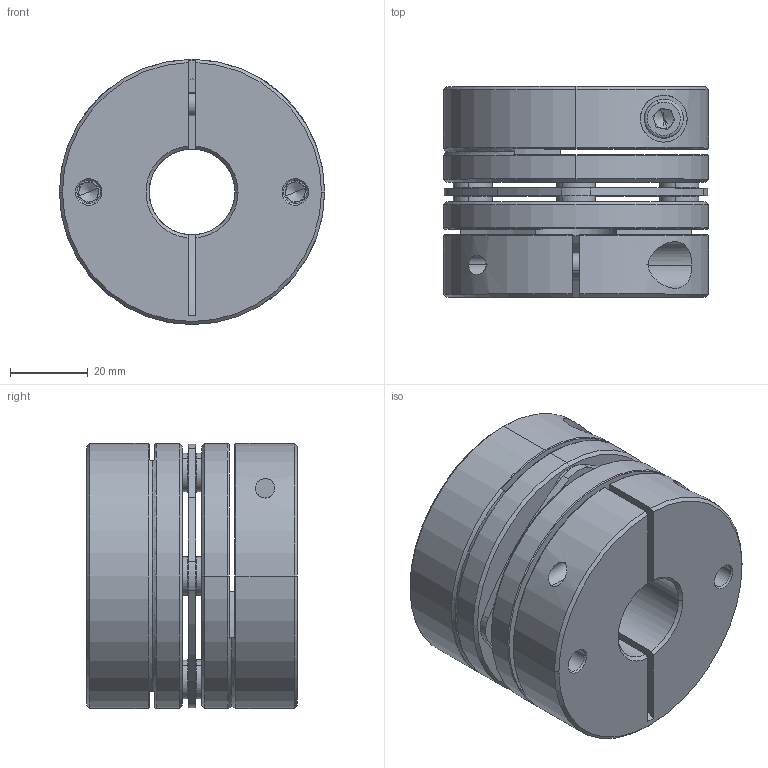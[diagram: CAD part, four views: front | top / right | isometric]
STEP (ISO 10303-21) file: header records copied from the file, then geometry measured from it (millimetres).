
FILE_DESCRIPTION (( 'STEP AP203' ), '1' );
FILE_NAME ('LD1-D68-22-22.STEP', '2021-10-26T07:59:00', ( '' ), ( '' ), 'SwSTEP 2.0', 'SolidWorks 2018', '' );
FILE_SCHEMA (( 'CONFIG_CONTROL_DESIGN' ));
Length unit declared in the file: millimetre
Products named in the file (2): 錨璃101^LD1-D68; LD1-D68-22-22
Assembly tree (1 placements, depth 2):
  LD1-D68-22-22
    錨璃101^LD1-D68
Bounding box: 68 x 54 x 68 mm (x, y, z)
Volume: 148017.4 mm3; surface area: 46599 mm2
Topology: 1 solids, 15 shells, 441 faces, 1047 edges, 642 vertices
Faces by surface type: cylinder 161, plane 136, cone 122, torus 22
Entity records: 13321 total; most frequent: CARTESIAN_POINT 2590, DIRECTION 2405, ORIENTED_EDGE 2062, EDGE_CURVE 1031, AXIS2_PLACEMENT_3D 977, VERTEX_POINT 642, CIRCLE 532, EDGE_LOOP 521
